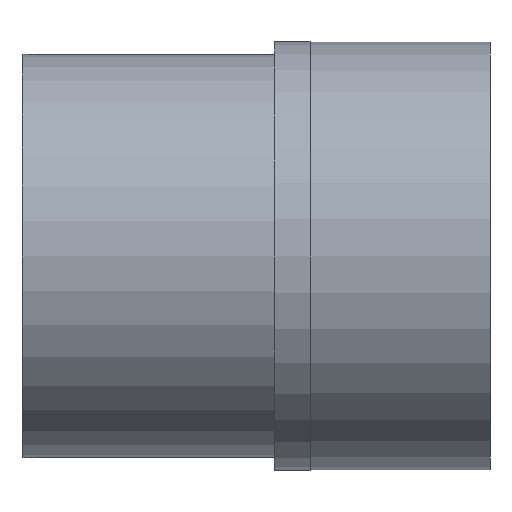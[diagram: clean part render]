
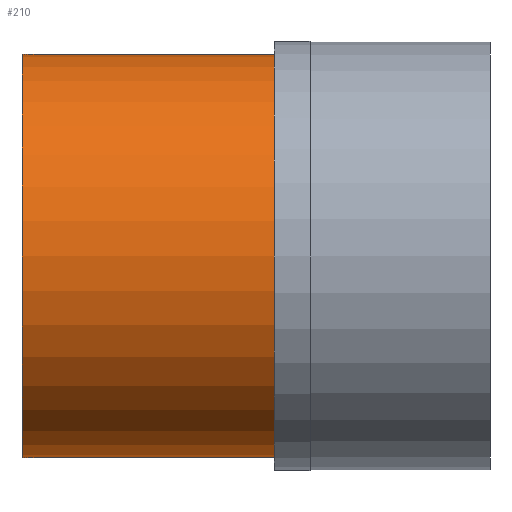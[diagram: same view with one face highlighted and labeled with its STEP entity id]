
A CAD part, front view. The second image highlights one B-rep face of the part: STEP entity #210.
In plain terms, the highlighted cylindrical face has radius 28 mm (diameter 56 mm), a full revolution.
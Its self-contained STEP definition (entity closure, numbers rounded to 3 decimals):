
#19=CYLINDRICAL_SURFACE($,#242,28.);
#34=FACE_BOUND($,#77,.T.);
#50=FACE_OUTER_BOUND($,#76,.T.);
#76=EDGE_LOOP($,(#161));
#77=EDGE_LOOP($,(#162));
#101=CIRCLE($,#241,28.);
#102=CIRCLE($,#243,28.);
#118=VERTEX_POINT($,#357);
#119=VERTEX_POINT($,#360);
#135=EDGE_CURVE($,#118,#118,#101,.T.);
#136=EDGE_CURVE($,#119,#119,#102,.T.);
#161=ORIENTED_EDGE($,*,*,#136,.F.);
#162=ORIENTED_EDGE($,*,*,#135,.T.);
#210=ADVANCED_FACE($,(#50,#34),#19,.T.);
#241=AXIS2_PLACEMENT_3D($,#358,#298,#299);
#242=AXIS2_PLACEMENT_3D($,#359,#300,#301);
#243=AXIS2_PLACEMENT_3D($,#361,#302,#303);
#298=DIRECTION('center_axis',(1.,0.,0.));
#299=DIRECTION('ref_axis',(0.,1.,0.));
#300=DIRECTION('center_axis',(1.,0.,0.));
#301=DIRECTION('ref_axis',(0.,1.,0.));
#302=DIRECTION('center_axis',(1.,0.,0.));
#303=DIRECTION('ref_axis',(0.,1.,0.));
#357=CARTESIAN_POINT('',(0.,28.,0.));
#358=CARTESIAN_POINT('Origin',(0.,0.,0.));
#359=CARTESIAN_POINT('Origin',(17.5,0.,0.));
#360=CARTESIAN_POINT('',(35.,28.,0.));
#361=CARTESIAN_POINT('Origin',(35.,0.,0.));
